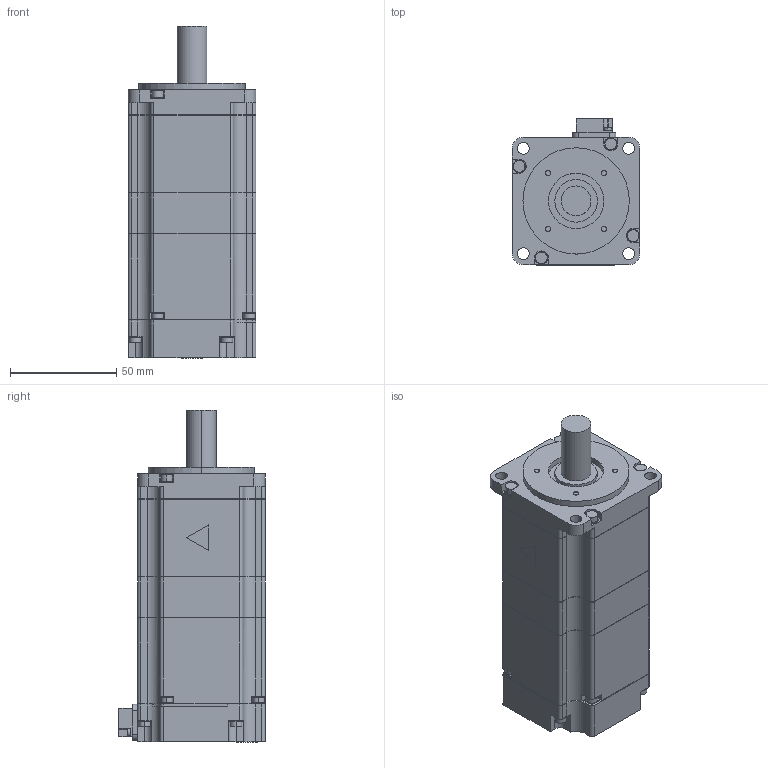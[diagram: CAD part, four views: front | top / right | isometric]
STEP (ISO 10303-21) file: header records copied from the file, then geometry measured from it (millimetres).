
FILE_DESCRIPTION (( 'STEP AP203' ), '1' );
FILE_NAME ('sgm7a_04a_a2c.STEP', '2015-12-21T22:34:30', ( '匠エンジニアリング山之内' ), ( 'TAKUMI-Engniaring' ), 'SwSTEP 2.0', 'SolidWorks 2006303', '' );
FILE_SCHEMA (( 'CONFIG_CONTROL_DESIGN' ));
Length unit declared in the file: millimetre
Products named in the file (1): sgm7a_04a_a2c
Bounding box: 60.1 x 68.8 x 156.1 mm (x, y, z)
Volume: 411013.7 mm3; surface area: 42012.9 mm2
Topology: 1 solids, 1 shells, 503 faces, 1322 edges, 876 vertices
Faces by surface type: plane 278, cylinder 225
Entity records: 15719 total; most frequent: DIRECTION 2796, CARTESIAN_POINT 2716, ORIENTED_EDGE 2644, EDGE_CURVE 1322, AXIS2_PLACEMENT_3D 972, VERTEX_POINT 876, VECTOR 852, LINE 852
